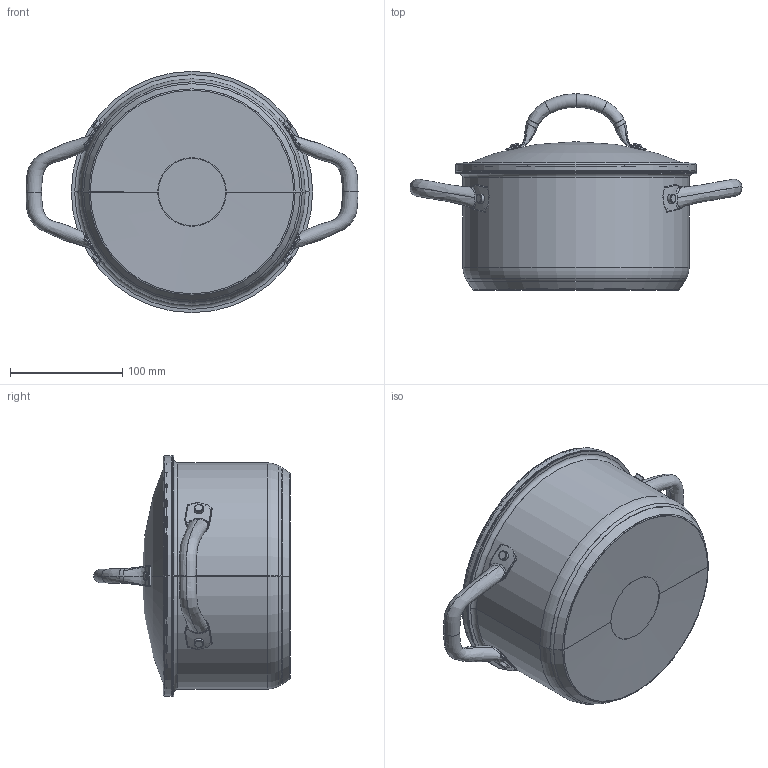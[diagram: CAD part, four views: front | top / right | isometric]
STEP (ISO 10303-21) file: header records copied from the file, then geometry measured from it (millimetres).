
FILE_DESCRIPTION((''),'2;1');
FILE_NAME('0309-200_ASM','2024-03-09T12:11:37',('3'),(''),'CREO PARAMETRIC BY PTC INC, 2021164','CREO PARAMETRIC BY PTC INC, 2021164','');
FILE_SCHEMA(('CONFIG_CONTROL_DESIGN','SHAPE_APPEARANCE_LAYERS_GROUPS'));
Length unit declared in the file: millimetre
Products named in the file (19): LF-B-200_3_1_1; LF-B-200_3_2_1; LF-B-200_3_ASM_1_ASM; 200-0001_4_ASM_1; LFB-2000_ASM_3_ASM_1_ASM; CEER_3_ASM_1; GAIEROK_5_ASM_1; LF-B-200_ASM_1_ASM_1_ASM; LF-B-200_ASM99999999999_ASM_1_ASM; LF-B-200_ASM; ADMI0F088764SOL5_1_1; ADMI0F088764SOL5_2_1; ADMI0F088764SOL5_ASM_1_ASM; 20_ASM_1_ASM; 20_ASM; GAI1; 200; 00_ASM; 0309-200_ASM
Assembly tree (20 placements, depth 7):
  0309-200_ASM
    LF-B-200_ASM
      LF-B-200_ASM99999999999_ASM_1_ASM
        LF-B-200_ASM_1_ASM_1_ASM
          LFB-2000_ASM_3_ASM_1_ASM
            LF-B-200_3_ASM_1_ASM
              LF-B-200_3_1_1
              LF-B-200_3_2_1
            200-0001_4_ASM_1
          CEER_3_ASM_1  x2
          GAIEROK_5_ASM_1
    20_ASM
      20_ASM_1_ASM
        ADMI0F088764SOL5_ASM_1_ASM
          ADMI0F088764SOL5_1_1
          ADMI0F088764SOL5_2_1
    GAI1
    00_ASM  x2
      200
Bounding box: 295.78 x 174.92 x 215 mm (x, y, z)
Volume: 313009.2 mm3; surface area: 406266.1 mm2
Topology: 11 solids, 11 shells, 507 faces, 1150 edges, 666 vertices
Faces by surface type: bspline 296, cylinder 88, torus 62, plane 25, sphere 20, cone 16
Entity records: 41702 total; most frequent: CARTESIAN_POINT 33297, ORIENTED_EDGE 1464, DIRECTION 1053, EDGE_CURVE 732, PRESENTATION_STYLE_ASSIGNMENT 505, STYLED_ITEM 505, CURVE_STYLE 500, AXIS2_PLACEMENT_3D 480
